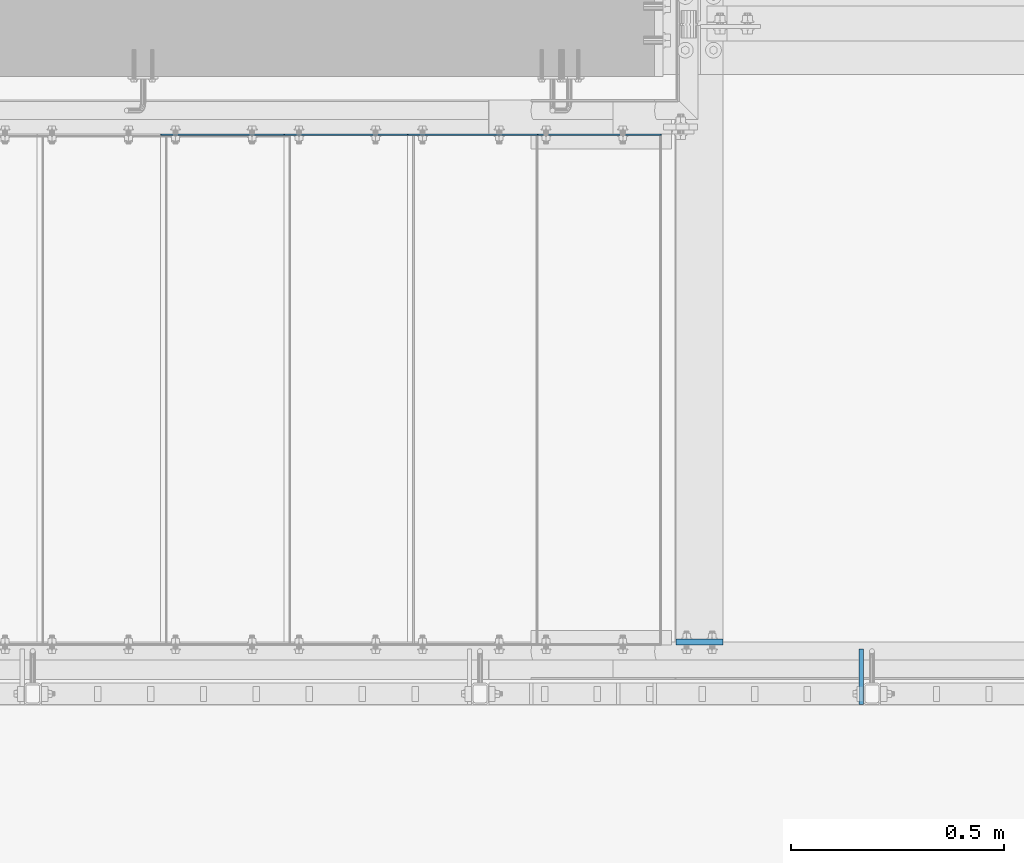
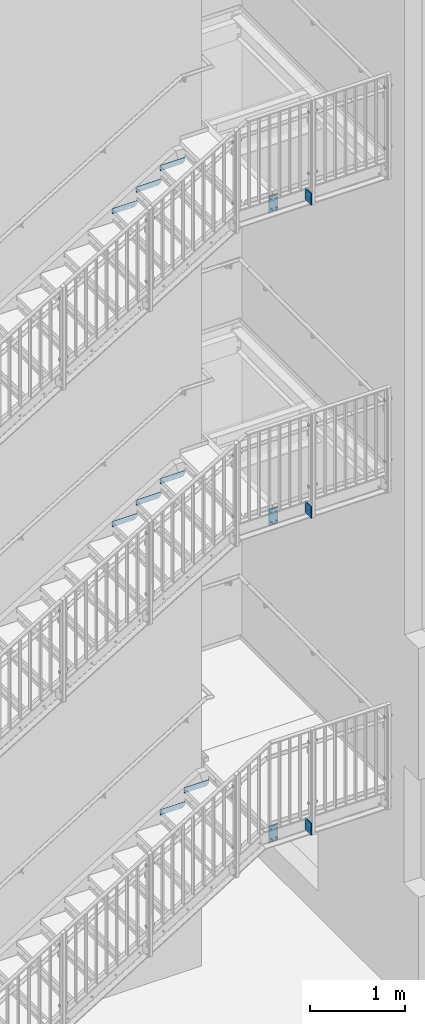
# One storey, part 61 of 410: 14 plates, 46 openings.
"""IFC2X3 building model written with IfcOpenShell, lengths in millimetres."""

import ifcopenshell
import ifcopenshell.guid

model = None  # the IFC model being written
_history = None  # IfcOwnerHistory: only IFC2X3 demands one
_inside = {}  # id of a spatial element -> (the spatial element, [elements in it])
_under = {}  # id of a project, library or spatial element -> (it, [spatial elements below it])
_declared = {}  # id of a project -> (the project, [libraries it declares])
_typed = {}  # id of a type object -> (the type object, [elements of that type])
_made_of = {}  # id of a material, layer set ... -> (it, [elements and type objects made of it])


def new_model(schema):
    """Start an empty IFC model of exactly this schema.

    Asked for "IFC4X3", IfcOpenShell would pick the latest addendum, in which some entities
    have other attributes; the version numbers below select the first issue.
    IFC2X3 requires an IfcOwnerHistory on every rooted entity: one is made here for all.
    """
    global model, _history
    if schema == "IFC4X3":
        model = ifcopenshell.file(schema_version=(4, 3, 0, 0))
    else:
        model = ifcopenshell.file(schema=schema)
    _inside.clear()
    _under.clear()
    _declared.clear()
    _typed.clear()
    _made_of.clear()
    _history = None
    if model.schema == "IFC2X3":
        org = make("IfcOrganization", Name="unknown")
        user = make(
            "IfcPersonAndOrganization",
            ThePerson=make("IfcPerson", FamilyName="unknown"),
            TheOrganization=org,
        )
        app = make(
            "IfcApplication",
            ApplicationDeveloper=org,
            Version="unknown",
            ApplicationFullName="unknown",
            ApplicationIdentifier="unknown",
        )
        _history = make(
            "IfcOwnerHistory",
            OwningUser=user,
            OwningApplication=app,
            ChangeAction="ADDED",
            CreationDate=0,
        )
    return model


def make(cls, **values):
    """One entity of the class cls with the attributes given. An attribute that is None is left unset."""
    return model.create_entity(
        cls, **{name: value for name, value in values.items() if value is not None}
    )


def entity(cls, *values):
    """Any entity or typed value of the class cls, its attributes in the order of the schema. None: left unset."""
    e = model.create_entity(cls)
    for i, value in enumerate(values):
        if value is not None:
            e[i] = value
    return e


def rooted(cls, **values):
    """An entity with a GlobalId (a new one), such as an element, a storey or a relation."""
    return make(cls, GlobalId=ifcopenshell.guid.new(), OwnerHistory=_history, **values)


def si_unit(unit_type, name, prefix=None):
    """IfcSIUnit, for example si_unit("LENGTHUNIT", "METRE", prefix="MILLI")."""
    return make("IfcSIUnit", UnitType=unit_type, Prefix=prefix, Name=name)


def converted_unit(unit_type, name, factor, base, dimensions=None, offset=None):
    """IfcConversionBasedUnit, such as the inch: factor (a typed value) times the base unit."""
    return make(
        "IfcConversionBasedUnit"
        if offset is None
        else "IfcConversionBasedUnitWithOffset",
        ConversionOffset=offset,
        Dimensions=None
        if dimensions is None
        else entity("IfcDimensionalExponents", *dimensions),
        UnitType=unit_type,
        Name=name,
        ConversionFactor=make(
            "IfcMeasureWithUnit", ValueComponent=factor, UnitComponent=base
        ),
    )


def assignment(units):
    """IfcUnitAssignment: the units of a project."""
    return None if units is None else make("IfcUnitAssignment", Units=units)


def point(xyz):
    """IfcCartesianPoint."""
    return None if xyz is None else make("IfcCartesianPoint", Coordinates=xyz)


def direction(xyz):
    """IfcDirection."""
    return None if xyz is None else make("IfcDirection", DirectionRatios=xyz)


def frame(location, z_axis=None, x_axis=None):
    """IfcAxis2Placement3D, a coordinate frame: its origin and axes. An axis left out is left unset."""
    return make(
        "IfcAxis2Placement3D",
        Location=point(location),
        Axis=direction(z_axis),
        RefDirection=direction(x_axis),
    )


def frame_2d(location, x_axis=None):
    """IfcAxis2Placement2D, a coordinate frame in the plane: its origin and x axis."""
    return make(
        "IfcAxis2Placement2D", Location=point(location), RefDirection=direction(x_axis)
    )


def origin():
    """The frame at (0, 0, 0) with its axes left unset."""
    return frame((0.0, 0.0, 0.0))


def origin_with_axes():
    """The frame at (0, 0, 0) with the z axis (0, 0, 1) and the x axis (1, 0, 0) written out."""
    return frame((0.0, 0.0, 0.0), z_axis=(0.0, 0.0, 1.0), x_axis=(1.0, 0.0, 0.0))


def origin_2d_with_axis():
    """The frame at (0, 0) in the plane with the x axis (1, 0) written out."""
    return frame_2d((0.0, 0.0), x_axis=(1.0, 0.0))


def place(relative_to, where):
    """IfcLocalPlacement: puts the frame where relative to a parent placement (None: the world)."""
    return make(
        "IfcLocalPlacement", PlacementRelTo=relative_to, RelativePlacement=where
    )


def context(
    kind, dimensions, precision=None, world=None, true_north=None, identifier=None
):
    """IfcGeometricRepresentationContext, for example the 3D "Model" context."""
    return make(
        "IfcGeometricRepresentationContext",
        ContextIdentifier=identifier,
        ContextType=kind,
        CoordinateSpaceDimension=dimensions,
        Precision=precision,
        WorldCoordinateSystem=world,
        TrueNorth=true_north,
    )


def project(units=None, contexts=None):
    """IfcProject with its units and contexts."""
    return rooted(
        "IfcProject",
        Name="project",
        RepresentationContexts=contexts,
        UnitsInContext=assignment(units),
    )


def spatial(cls, under=None, at=None, **own):
    """A site, building, storey or space (cls), placed at a placement, below another one or the project."""
    s = rooted(cls, ObjectPlacement=at, **own)
    if under is not None:
        _under.setdefault(under.id(), (under, []))[1].append(s)
    return s


def polyline(points):
    """IfcPolyline through the points."""
    return make("IfcPolyline", Points=[point(p) for p in points])


def circle_curve(where, radius):
    """IfcCircle in the frame where."""
    return make("IfcCircle", Position=where, Radius=radius)


def line_curve(start, along, magnitude):
    """IfcLine from a point along a vector."""
    return make(
        "IfcLine",
        Pnt=point(start),
        Dir=make("IfcVector", Orientation=direction(along), Magnitude=magnitude),
    )


def trimmed(basis, trim1, trim2, sense, master):
    """IfcTrimmedCurve: the piece of a basis curve between two trims."""
    return make(
        "IfcTrimmedCurve",
        BasisCurve=basis,
        Trim1=trim1,
        Trim2=trim2,
        SenseAgreement=sense,
        MasterRepresentation=master,
    )


def segment(curve, same_sense, transition):
    """IfcCompositeCurveSegment."""
    return make(
        "IfcCompositeCurveSegment",
        Transition=transition,
        SameSense=same_sense,
        ParentCurve=curve,
    )


def composite_curve(segments, self_intersect=None):
    """IfcCompositeCurve: segments joined end to end."""
    return make("IfcCompositeCurve", Segments=segments, SelfIntersect=self_intersect)


def profile(cls, at=None, kind="AREA", **sizes):
    """A parametric profile (cls). Its sizes go by their IFC names, for example OverallWidth=200.0."""
    return make(cls, ProfileType=kind, Position=at, **sizes)


def circle(**sizes):
    """IfcCircleProfileDef."""
    return profile("IfcCircleProfileDef", **sizes)


def outline(outer, holes=None, kind="AREA"):
    """IfcArbitraryClosedProfileDef: a profile drawn as a closed curve; with holes, ...WithVoids."""
    if holes is None:
        return make("IfcArbitraryClosedProfileDef", ProfileType=kind, OuterCurve=outer)
    return make(
        "IfcArbitraryProfileDefWithVoids",
        ProfileType=kind,
        OuterCurve=outer,
        InnerCurves=holes,
    )


def extrude(swept, where, along, depth):
    """IfcExtrudedAreaSolid: the profile swept, set in the frame where, extruded along a direction by depth."""
    return make(
        "IfcExtrudedAreaSolid",
        SweptArea=swept,
        Position=where,
        ExtrudedDirection=direction(along),
        Depth=depth,
    )


def shape(context_of_items, identifier, shape_type, items):
    """IfcShapeRepresentation: the items that make up one representation, for example the "Body"."""
    return make(
        "IfcShapeRepresentation",
        ContextOfItems=context_of_items,
        RepresentationIdentifier=identifier,
        RepresentationType=shape_type,
        Items=items,
    )


def material(Name=None, Category=None):
    """IfcMaterial."""
    return make("IfcMaterial", Name=Name, Category=Category)


def layer(
    of_material, thickness, ventilated=None, Name=None, Category=None, Priority=None
):
    """IfcMaterialLayer: one layer of a wall or slab, of a material (None: an air gap)."""
    return make(
        "IfcMaterialLayer",
        Material=of_material,
        LayerThickness=thickness,
        IsVentilated=ventilated,
        Name=Name,
        Category=Category,
        Priority=Priority,
    )


def layer_set(layers, Name=None):
    """IfcMaterialLayerSet."""
    return make("IfcMaterialLayerSet", MaterialLayers=layers, LayerSetName=Name)


def made_of(thing, what):
    """Note that an element or type object is made of a material, layer set ...; save() writes the relation."""
    if what is not None:
        _made_of.setdefault(what.id(), (what, []))[1].append(thing)
    return thing


def element(
    cls,
    number,
    at=None,
    inside=None,
    cuts=None,
    type_object=None,
    material=None,
    context=None,
    identifier="Body",
    shape_type=None,
    held_by="IfcProductDefinitionShape",
    body=None,
    shapes=None,
    **own,
):
    """One element of the class cls, such as IfcWall. Its Tag is "e" and its number.

    at: its placement. inside: the storey or other place that contains it. cuts: it is an
    opening in that element (IfcRelVoidsElement). A single representation is given by context,
    identifier, shape_type and body (its items); several are given by shapes. held_by: the class
    of the entity that holds the representations. save() writes the other relations.
    """
    e = rooted(cls, Tag="e%d" % number, ObjectPlacement=at, **own)
    if body is not None:
        shapes = [shape(context, identifier, shape_type, body)]
    if shapes is not None:
        e.Representation = make(held_by, Representations=shapes)
    if inside is not None:
        _inside.setdefault(inside.id(), (inside, []))[1].append(e)
    if cuts is not None:
        rooted(
            "IfcRelVoidsElement", RelatingBuildingElement=cuts, RelatedOpeningElement=e
        )
    if type_object is not None:
        _typed.setdefault(type_object.id(), (type_object, []))[1].append(e)
    return made_of(e, material)


def aggregate(whole, parts):
    """IfcRelAggregates: a whole, such as a stair, and the parts it consists of."""
    return rooted("IfcRelAggregates", RelatingObject=whole, RelatedObjects=parts)


def save(model, path):
    """Write the relations noted so far, then the file.

    IfcRelAggregates (storeys below a building ...), IfcRelContainedInSpatialStructure (elements
    in a storey), IfcRelDefinesByType, IfcRelAssociatesMaterial and IfcRelDeclares: one each for
    every whole, place, type object, material and project.
    """
    for whole, parts in _under.values():
        aggregate(whole, parts)
    for where, things in _inside.values():
        rooted(
            "IfcRelContainedInSpatialStructure",
            RelatedElements=things,
            RelatingStructure=where,
        )
    for kind, things in _typed.values():
        rooted("IfcRelDefinesByType", RelatedObjects=things, RelatingType=kind)
    for what, things in _made_of.values():
        rooted("IfcRelAssociatesMaterial", RelatedObjects=things, RelatingMaterial=what)
    for by, libraries in _declared.values():
        rooted("IfcRelDeclares", RelatingContext=by, RelatedDefinitions=libraries)
    model.write(path)


model = new_model("IFC2X3")

# Units and contexts
model_context = context("Model", 3, precision=1e-09, world=origin_with_axes())
ifc_project = project(units=[si_unit("LENGTHUNIT", "METRE", prefix="MILLI"), si_unit("AREAUNIT", "SQUARE_METRE"), si_unit("VOLUMEUNIT", "CUBIC_METRE"), converted_unit("PLANEANGLEUNIT", "DEGREE", entity("IfcPlaneAngleMeasure", 0.01745329), si_unit("PLANEANGLEUNIT", "RADIAN"), dimensions=[0, 0, 0, 0, 0, 0, 0])], contexts=[model_context])

# Site, building, storey
site_placement = place(None, origin_with_axes())
site = spatial("IfcSite", under=ifc_project, at=site_placement, Name="mKR Teilneubau & Sanierung BA1 - Ostfildern", CompositionType="ELEMENT")
building_placement = place(site_placement, origin_with_axes())
building = spatial("IfcBuilding", under=site, at=building_placement, Name="Struktur 1", CompositionType="ELEMENT")
storey_placement = place(building_placement, origin_with_axes())
storey = spatial("IfcBuildingStorey", under=building, at=storey_placement, Name="Default Storey", CompositionType="ELEMENT", Elevation=0.0)

# Plate, openings
ifc_material = material(Name="S235JR")
ifc_layer_1 = layer(ifc_material, 3.0)
ifc_layer_set_1 = layer_set([ifc_layer_1], Name="S235JR")
plate_1_placement = place(None, frame((1195.0, 16719.999999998, -2503.2), z_axis=(0.0, -1.0, 0.0), x_axis=(0.0, 0.0, -1.0)))
plate_1 = element("IfcPlate", 1, at=plate_1_placement, inside=storey, material=ifc_layer_set_1, Name="Grate_Step#2", ObjectType="Grate_Step#2", context=model_context, shape_type="SweptSolid", body=[
    extrude(outline(polyline([(0.0, 0.0), (70.0, 0.0), (70.0, 275.0), (40.0, 305.0), (0.0, 305.0), (0.0, 0.0)])), origin_with_axes(), (0.0, 0.0, 1.0), 3.0),
])
opening_1_placement = place(plate_1_placement, frame((55.0, 215.0, 3.5), z_axis=(0.0, 0.0, -1.0), x_axis=(0.0, 1.0, 0.0)))
element("IfcOpeningElement", 2, at=opening_1_placement, cuts=plate_1, ObjectType="Opening", context=model_context, shape_type="SweptSolid", body=[
    extrude(outline(composite_curve([segment(trimmed(line_curve((-9.5, -7.001), (1.0, 0.0), 19.0), [point((-9.5, -7.001))], [point((9.5, -7.001))], True, "CARTESIAN"), True, "CONTINUOUS"), segment(trimmed(circle_curve(frame_2d((9.5, 0.0), x_axis=(1.0, 0.0)), 7.001), [point((9.5, -7.001))], [point((9.5, 7.001))], True, "CARTESIAN"), True, "CONTINUOUS"), segment(trimmed(line_curve((9.5, 7.001), (-1.0, 0.0), 19.0), [point((9.5, 7.001))], [point((-9.5, 7.001))], True, "CARTESIAN"), True, "CONTINUOUS"), segment(trimmed(circle_curve(frame_2d((-9.5, 0.0), x_axis=(1.0, 0.0)), 7.001), [point((-9.5, 7.001))], [point((-9.5, -7.001))], True, "CARTESIAN"), True, "CONTINUOUS")], self_intersect=False)), origin(), (0.0, 0.0, 1.0), 4.0),
])
opening_2_placement = place(plate_1_placement, frame((55.0, 35.0, 3.5), z_axis=(0.0, 0.0, -1.0), x_axis=(0.0, 1.0, 0.0)))
element("IfcOpeningElement", 3, at=opening_2_placement, cuts=plate_1, ObjectType="Opening", context=model_context, shape_type="SweptSolid", body=[
    extrude(circle(Radius=7.001, at=origin_2d_with_axis()), origin(), (0.0, 0.0, 1.0), 4.0),
])

plate_2_placement = place(None, frame((1485.0, 16719.999999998, -2324.4), z_axis=(0.0, -1.0, 0.0), x_axis=(0.0, 0.0, -1.0)))
plate_2 = element("IfcPlate", 4, at=plate_2_placement, inside=storey, material=ifc_layer_set_1, Name="Grate_Step#2", ObjectType="Grate_Step#2", context=model_context, shape_type="SweptSolid", body=[
    extrude(outline(polyline([(0.0, 0.0), (70.0, 0.0), (70.0, 275.0), (40.0, 305.0), (0.0, 305.0), (0.0, 0.0)])), origin_with_axes(), (0.0, 0.0, 1.0), 3.0),
])
opening_3_placement = place(plate_2_placement, frame((55.0, 215.0, 3.5), z_axis=(0.0, 0.0, -1.0), x_axis=(0.0, 1.0, 0.0)))
element("IfcOpeningElement", 5, at=opening_3_placement, cuts=plate_2, ObjectType="Opening", context=model_context, shape_type="SweptSolid", body=[
    extrude(outline(composite_curve([segment(trimmed(line_curve((-9.5, -7.001), (1.0, 0.0), 19.0), [point((-9.5, -7.001))], [point((9.5, -7.001))], True, "CARTESIAN"), True, "CONTINUOUS"), segment(trimmed(circle_curve(frame_2d((9.5, 0.0), x_axis=(1.0, 0.0)), 7.001), [point((9.5, -7.001))], [point((9.5, 7.001))], True, "CARTESIAN"), True, "CONTINUOUS"), segment(trimmed(line_curve((9.5, 7.001), (-1.0, 0.0), 19.0), [point((9.5, 7.001))], [point((-9.5, 7.001))], True, "CARTESIAN"), True, "CONTINUOUS"), segment(trimmed(circle_curve(frame_2d((-9.5, 0.0), x_axis=(1.0, 0.0)), 7.001), [point((-9.5, 7.001))], [point((-9.5, -7.001))], True, "CARTESIAN"), True, "CONTINUOUS")], self_intersect=False)), origin(), (0.0, 0.0, 1.0), 4.0),
])
opening_4_placement = place(plate_2_placement, frame((55.0, 35.0, 3.5), z_axis=(0.0, 0.0, -1.0), x_axis=(0.0, 1.0, 0.0)))
element("IfcOpeningElement", 6, at=opening_4_placement, cuts=plate_2, ObjectType="Opening", context=model_context, shape_type="SweptSolid", body=[
    extrude(circle(Radius=7.001, at=origin_2d_with_axis()), origin(), (0.0, 0.0, 1.0), 4.0),
])

plate_3_placement = place(None, frame((615.0, 16719.999999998, 1391.304348), z_axis=(0.0, -1.0, 0.0), x_axis=(0.0, 0.0, -1.0)))
plate_3 = element("IfcPlate", 7, at=plate_3_placement, inside=storey, material=ifc_layer_set_1, Name="Grate_Step#2", ObjectType="Grate_Step#2", context=model_context, shape_type="SweptSolid", body=[
    extrude(outline(polyline([(0.0, 0.0), (70.0, 0.0), (70.0, 275.0), (40.0, 305.0), (0.0, 305.0), (0.0, 0.0)])), origin_with_axes(), (0.0, 0.0, 1.0), 3.0),
])
opening_5_placement = place(plate_3_placement, frame((55.0, 35.0, 3.5), z_axis=(0.0, 0.0, -1.0), x_axis=(0.0, 1.0, 0.0)))
element("IfcOpeningElement", 8, at=opening_5_placement, cuts=plate_3, ObjectType="Opening", context=model_context, shape_type="SweptSolid", body=[
    extrude(circle(Radius=7.001, at=origin_2d_with_axis()), origin(), (0.0, 0.0, 1.0), 4.0),
])
opening_6_placement = place(plate_3_placement, frame((55.0, 215.0, 3.5), z_axis=(0.0, 0.0, -1.0), x_axis=(0.0, 1.0, 0.0)))
element("IfcOpeningElement", 9, at=opening_6_placement, cuts=plate_3, ObjectType="Opening", context=model_context, shape_type="SweptSolid", body=[
    extrude(outline(composite_curve([segment(trimmed(line_curve((-9.5, -7.001), (1.0, 0.0), 19.0), [point((-9.5, -7.001))], [point((9.5, -7.001))], True, "CARTESIAN"), True, "CONTINUOUS"), segment(trimmed(circle_curve(frame_2d((9.5, 0.0), x_axis=(1.0, 0.0)), 7.001), [point((9.5, -7.001))], [point((9.5, 7.001))], True, "CARTESIAN"), True, "CONTINUOUS"), segment(trimmed(line_curve((9.5, 7.001), (-1.0, 0.0), 19.0), [point((9.5, 7.001))], [point((-9.5, 7.001))], True, "CARTESIAN"), True, "CONTINUOUS"), segment(trimmed(circle_curve(frame_2d((-9.5, 0.0), x_axis=(1.0, 0.0)), 7.001), [point((-9.5, 7.001))], [point((-9.5, -7.001))], True, "CARTESIAN"), True, "CONTINUOUS")], self_intersect=False)), origin(), (0.0, 0.0, 1.0), 4.0),
])

plate_4_placement = place(None, frame((905.0, 16719.999999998, 1565.2173915), z_axis=(0.0, -1.0, 0.0), x_axis=(0.0, 0.0, -1.0)))
plate_4 = element("IfcPlate", 10, at=plate_4_placement, inside=storey, material=ifc_layer_set_1, Name="Grate_Step#2", ObjectType="Grate_Step#2", context=model_context, shape_type="SweptSolid", body=[
    extrude(outline(polyline([(0.0, 0.0), (70.0, 0.0), (70.0, 275.0), (40.0, 305.0), (0.0, 305.0), (0.0, 0.0)])), origin_with_axes(), (0.0, 0.0, 1.0), 3.0),
])
opening_7_placement = place(plate_4_placement, frame((55.0, 35.0, 3.5), z_axis=(0.0, 0.0, -1.0), x_axis=(0.0, 1.0, 0.0)))
element("IfcOpeningElement", 11, at=opening_7_placement, cuts=plate_4, ObjectType="Opening", context=model_context, shape_type="SweptSolid", body=[
    extrude(circle(Radius=7.001, at=origin_2d_with_axis()), origin(), (0.0, 0.0, 1.0), 4.0),
])
opening_8_placement = place(plate_4_placement, frame((55.0, 215.0, 3.5), z_axis=(0.0, 0.0, -1.0), x_axis=(0.0, 1.0, 0.0)))
element("IfcOpeningElement", 12, at=opening_8_placement, cuts=plate_4, ObjectType="Opening", context=model_context, shape_type="SweptSolid", body=[
    extrude(outline(composite_curve([segment(trimmed(line_curve((-9.5, -7.001), (1.0, 0.0), 19.0), [point((-9.5, -7.001))], [point((9.5, -7.001))], True, "CARTESIAN"), True, "CONTINUOUS"), segment(trimmed(circle_curve(frame_2d((9.5, 0.0), x_axis=(1.0, 0.0)), 7.001), [point((9.5, -7.001))], [point((9.5, 7.001))], True, "CARTESIAN"), True, "CONTINUOUS"), segment(trimmed(line_curve((9.5, 7.001), (-1.0, 0.0), 19.0), [point((9.5, 7.001))], [point((-9.5, 7.001))], True, "CARTESIAN"), True, "CONTINUOUS"), segment(trimmed(circle_curve(frame_2d((-9.5, 0.0), x_axis=(1.0, 0.0)), 7.001), [point((-9.5, 7.001))], [point((-9.5, -7.001))], True, "CARTESIAN"), True, "CONTINUOUS")], self_intersect=False)), origin(), (0.0, 0.0, 1.0), 4.0),
])

plate_5_placement = place(None, frame((1195.0, 16719.999999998, 1739.130435), z_axis=(0.0, -1.0, 0.0), x_axis=(0.0, 0.0, -1.0)))
plate_5 = element("IfcPlate", 13, at=plate_5_placement, inside=storey, material=ifc_layer_set_1, Name="Grate_Step#2", ObjectType="Grate_Step#2", context=model_context, shape_type="SweptSolid", body=[
    extrude(outline(polyline([(0.0, 0.0), (70.0, 0.0), (70.0, 275.0), (40.0, 305.0), (0.0, 305.0), (0.0, 0.0)])), origin_with_axes(), (0.0, 0.0, 1.0), 3.0),
])
opening_9_placement = place(plate_5_placement, frame((55.0, 215.0, 3.5), z_axis=(0.0, 0.0, -1.0), x_axis=(0.0, 1.0, 0.0)))
element("IfcOpeningElement", 14, at=opening_9_placement, cuts=plate_5, ObjectType="Opening", context=model_context, shape_type="SweptSolid", body=[
    extrude(outline(composite_curve([segment(trimmed(line_curve((-9.5, -7.001), (1.0, 0.0), 19.0), [point((-9.5, -7.001))], [point((9.5, -7.001))], True, "CARTESIAN"), True, "CONTINUOUS"), segment(trimmed(circle_curve(frame_2d((9.5, 0.0), x_axis=(1.0, 0.0)), 7.001), [point((9.5, -7.001))], [point((9.5, 7.001))], True, "CARTESIAN"), True, "CONTINUOUS"), segment(trimmed(line_curve((9.5, 7.001), (-1.0, 0.0), 19.0), [point((9.5, 7.001))], [point((-9.5, 7.001))], True, "CARTESIAN"), True, "CONTINUOUS"), segment(trimmed(circle_curve(frame_2d((-9.5, 0.0), x_axis=(1.0, 0.0)), 7.001), [point((-9.5, 7.001))], [point((-9.5, -7.001))], True, "CARTESIAN"), True, "CONTINUOUS")], self_intersect=False)), origin(), (0.0, 0.0, 1.0), 4.0),
])
opening_10_placement = place(plate_5_placement, frame((55.0, 35.0, 3.5), z_axis=(0.0, 0.0, -1.0), x_axis=(0.0, 1.0, 0.0)))
element("IfcOpeningElement", 15, at=opening_10_placement, cuts=plate_5, ObjectType="Opening", context=model_context, shape_type="SweptSolid", body=[
    extrude(circle(Radius=7.001, at=origin_2d_with_axis()), origin(), (0.0, 0.0, 1.0), 4.0),
])

plate_6_placement = place(None, frame((615.0, 16719.999999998, 5400.0), z_axis=(0.0, -1.0, 0.0), x_axis=(0.0, 0.0, -1.0)))
plate_6 = element("IfcPlate", 16, at=plate_6_placement, inside=storey, material=ifc_layer_set_1, Name="Grate_Step#2", ObjectType="Grate_Step#2", context=model_context, shape_type="SweptSolid", body=[
    extrude(outline(polyline([(0.0, 0.0), (70.0, 0.0), (70.0, 275.0), (40.0, 305.0), (0.0, 305.0), (0.0, 0.0)])), origin_with_axes(), (0.0, 0.0, 1.0), 3.0),
])
opening_11_placement = place(plate_6_placement, frame((55.0, 215.0, 3.5), z_axis=(0.0, 0.0, -1.0), x_axis=(0.0, 1.0, 0.0)))
element("IfcOpeningElement", 17, at=opening_11_placement, cuts=plate_6, ObjectType="Opening", context=model_context, shape_type="SweptSolid", body=[
    extrude(outline(composite_curve([segment(trimmed(line_curve((-9.5, -7.001), (1.0, 0.0), 19.0), [point((-9.5, -7.001))], [point((9.5, -7.001))], True, "CARTESIAN"), True, "CONTINUOUS"), segment(trimmed(circle_curve(frame_2d((9.5, 0.0), x_axis=(1.0, 0.0)), 7.001), [point((9.5, -7.001))], [point((9.5, 7.001))], True, "CARTESIAN"), True, "CONTINUOUS"), segment(trimmed(line_curve((9.5, 7.001), (-1.0, 0.0), 19.0), [point((9.5, 7.001))], [point((-9.5, 7.001))], True, "CARTESIAN"), True, "CONTINUOUS"), segment(trimmed(circle_curve(frame_2d((-9.5, 0.0), x_axis=(1.0, 0.0)), 7.001), [point((-9.5, 7.001))], [point((-9.5, -7.001))], True, "CARTESIAN"), True, "CONTINUOUS")], self_intersect=False)), origin(), (0.0, 0.0, 1.0), 4.0),
])
opening_12_placement = place(plate_6_placement, frame((55.0, 35.0, 3.5), z_axis=(0.0, 0.0, -1.0), x_axis=(0.0, 1.0, 0.0)))
element("IfcOpeningElement", 18, at=opening_12_placement, cuts=plate_6, ObjectType="Opening", context=model_context, shape_type="SweptSolid", body=[
    extrude(circle(Radius=7.001, at=origin_2d_with_axis()), origin(), (0.0, 0.0, 1.0), 4.0),
])

plate_7_placement = place(None, frame((905.0, 16719.999999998, 5575.0), z_axis=(0.0, -1.0, 0.0), x_axis=(0.0, 0.0, -1.0)))
plate_7 = element("IfcPlate", 19, at=plate_7_placement, inside=storey, material=ifc_layer_set_1, Name="Grate_Step#2", ObjectType="Grate_Step#2", context=model_context, shape_type="SweptSolid", body=[
    extrude(outline(polyline([(0.0, 0.0), (70.0, 0.0), (70.0, 275.0), (40.0, 305.0), (0.0, 305.0), (0.0, 0.0)])), origin_with_axes(), (0.0, 0.0, 1.0), 3.0),
])
opening_13_placement = place(plate_7_placement, frame((55.0, 215.0, 3.5), z_axis=(0.0, 0.0, -1.0), x_axis=(0.0, 1.0, 0.0)))
element("IfcOpeningElement", 20, at=opening_13_placement, cuts=plate_7, ObjectType="Opening", context=model_context, shape_type="SweptSolid", body=[
    extrude(outline(composite_curve([segment(trimmed(line_curve((-9.5, -7.001), (1.0, 0.0), 19.0), [point((-9.5, -7.001))], [point((9.5, -7.001))], True, "CARTESIAN"), True, "CONTINUOUS"), segment(trimmed(circle_curve(frame_2d((9.5, 0.0), x_axis=(1.0, 0.0)), 7.001), [point((9.5, -7.001))], [point((9.5, 7.001))], True, "CARTESIAN"), True, "CONTINUOUS"), segment(trimmed(line_curve((9.5, 7.001), (-1.0, 0.0), 19.0), [point((9.5, 7.001))], [point((-9.5, 7.001))], True, "CARTESIAN"), True, "CONTINUOUS"), segment(trimmed(circle_curve(frame_2d((-9.5, 0.0), x_axis=(1.0, 0.0)), 7.001), [point((-9.5, 7.001))], [point((-9.5, -7.001))], True, "CARTESIAN"), True, "CONTINUOUS")], self_intersect=False)), origin(), (0.0, 0.0, 1.0), 4.0),
])
opening_14_placement = place(plate_7_placement, frame((55.0, 35.0, 3.5), z_axis=(0.0, 0.0, -1.0), x_axis=(0.0, 1.0, 0.0)))
element("IfcOpeningElement", 21, at=opening_14_placement, cuts=plate_7, ObjectType="Opening", context=model_context, shape_type="SweptSolid", body=[
    extrude(circle(Radius=7.001, at=origin_2d_with_axis()), origin(), (0.0, 0.0, 1.0), 4.0),
])

plate_8_placement = place(None, frame((1195.0, 16719.999999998, 5750.0), z_axis=(0.0, -1.0, 0.0), x_axis=(0.0, 0.0, -1.0)))
plate_8 = element("IfcPlate", 22, at=plate_8_placement, inside=storey, material=ifc_layer_set_1, Name="Grate_Step#2", ObjectType="Grate_Step#2", context=model_context, shape_type="SweptSolid", body=[
    extrude(outline(polyline([(0.0, 0.0), (70.0, 0.0), (70.0, 275.0), (40.0, 305.0), (0.0, 305.0), (0.0, 0.0)])), origin_with_axes(), (0.0, 0.0, 1.0), 3.0),
])
opening_15_placement = place(plate_8_placement, frame((55.0, 215.0, 3.5), z_axis=(0.0, 0.0, -1.0), x_axis=(0.0, 1.0, 0.0)))
element("IfcOpeningElement", 23, at=opening_15_placement, cuts=plate_8, ObjectType="Opening", context=model_context, shape_type="SweptSolid", body=[
    extrude(outline(composite_curve([segment(trimmed(line_curve((-9.5, -7.001), (1.0, 0.0), 19.0), [point((-9.5, -7.001))], [point((9.5, -7.001))], True, "CARTESIAN"), True, "CONTINUOUS"), segment(trimmed(circle_curve(frame_2d((9.5, 0.0), x_axis=(1.0, 0.0)), 7.001), [point((9.5, -7.001))], [point((9.5, 7.001))], True, "CARTESIAN"), True, "CONTINUOUS"), segment(trimmed(line_curve((9.5, 7.001), (-1.0, 0.0), 19.0), [point((9.5, 7.001))], [point((-9.5, 7.001))], True, "CARTESIAN"), True, "CONTINUOUS"), segment(trimmed(circle_curve(frame_2d((-9.5, 0.0), x_axis=(1.0, 0.0)), 7.001), [point((-9.5, 7.001))], [point((-9.5, -7.001))], True, "CARTESIAN"), True, "CONTINUOUS")], self_intersect=False)), origin(), (0.0, 0.0, 1.0), 4.0),
])
opening_16_placement = place(plate_8_placement, frame((55.0, 35.0, 3.5), z_axis=(0.0, 0.0, -1.0), x_axis=(0.0, 1.0, 0.0)))
element("IfcOpeningElement", 24, at=opening_16_placement, cuts=plate_8, ObjectType="Opening", context=model_context, shape_type="SweptSolid", body=[
    extrude(circle(Radius=7.001, at=origin_2d_with_axis()), origin(), (0.0, 0.0, 1.0), 4.0),
])

ifc_layer_2 = layer(ifc_material, 15.0)
ifc_layer_set_2 = layer_set([ifc_layer_2], Name="S235JR")
plate_9_placement = place(None, frame((1880.001468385, 15534.999999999, 1743.0434785), z_axis=(0.0, -1.0, 0.0), x_axis=(1.0, 0.0, 0.0)))
plate_9 = element("IfcPlate", 25, at=plate_9_placement, inside=storey, material=ifc_layer_set_2, Name="-", ObjectType="-", context=model_context, shape_type="SweptSolid", body=[
    extrude(outline(polyline([(-55.0, -105.0), (55.0, -105.0), (55.0, 105.0), (-55.0, 105.0), (-55.0, -105.0)])), origin_with_axes(), (0.0, 0.0, 1.0), 15.0),
])
opening_17_placement = place(plate_9_placement, frame((2.9e-08, 1.5e-08, -0.5), z_axis=(0.0, 0.0, 1.0), x_axis=(1.0, 0.0, 0.0)))
element("IfcOpeningElement", 26, at=opening_17_placement, cuts=plate_9, ObjectType="Opening", context=model_context, shape_type="SweptSolid", body=[
    extrude(circle(Radius=7.001, at=frame_2d((30.0, 60.0), x_axis=(1.0, 0.0))), origin(), (0.0, 0.0, 1.0), 16.0),
])
opening_18_placement = place(plate_9_placement, frame((2.9e-08, 1.5e-08, -0.5), z_axis=(0.0, 0.0, 1.0), x_axis=(1.0, 0.0, 0.0)))
element("IfcOpeningElement", 27, at=opening_18_placement, cuts=plate_9, ObjectType="Opening", context=model_context, shape_type="SweptSolid", body=[
    extrude(circle(Radius=7.001, at=frame_2d((-30.0, 60.0), x_axis=(1.0, 0.0))), origin(), (0.0, 0.0, 1.0), 16.0),
])
opening_19_placement = place(plate_9_placement, frame((2.9e-08, 1.5e-08, -0.5), z_axis=(0.0, 0.0, 1.0), x_axis=(1.0, 0.0, 0.0)))
element("IfcOpeningElement", 28, at=opening_19_placement, cuts=plate_9, ObjectType="Opening", context=model_context, shape_type="SweptSolid", body=[
    extrude(circle(Radius=7.001, at=frame_2d((30.0, -60.0), x_axis=(1.0, 0.0))), origin(), (0.0, 0.0, 1.0), 16.0),
])
opening_20_placement = place(plate_9_placement, frame((2.9e-08, 1.5e-08, -0.5), z_axis=(0.0, 0.0, 1.0), x_axis=(1.0, 0.0, 0.0)))
element("IfcOpeningElement", 29, at=opening_20_placement, cuts=plate_9, ObjectType="Opening", context=model_context, shape_type="SweptSolid", body=[
    extrude(circle(Radius=7.001, at=frame_2d((-30.0, -60.0), x_axis=(1.0, 0.0))), origin(), (0.0, 0.0, 1.0), 16.0),
])
opening_21_placement = place(plate_9_placement, frame((14.95, 88.8, 15.5), z_axis=(0.0, 0.0, -1.0), x_axis=(0.0, 1.0, 0.0)))
element("IfcOpeningElement", 30, at=opening_21_placement, cuts=plate_9, ObjectType="Opening", context=model_context, shape_type="SweptSolid", body=[
    extrude(circle(Radius=6.001, at=origin_2d_with_axis()), origin(), (0.0, 0.0, 1.0), 16.0),
])
opening_22_placement = place(plate_9_placement, frame((14.95, -88.8, 15.5), z_axis=(0.0, 0.0, -1.0), x_axis=(0.0, 1.0, 0.0)))
element("IfcOpeningElement", 31, at=opening_22_placement, cuts=plate_9, ObjectType="Opening", context=model_context, shape_type="SweptSolid", body=[
    extrude(circle(Radius=6.001, at=origin_2d_with_axis()), origin(), (0.0, 0.0, 1.0), 16.0),
])
opening_23_placement = place(plate_9_placement, frame((-14.95, -88.8, 15.5), z_axis=(0.0, 0.0, -1.0), x_axis=(0.0, 1.0, 0.0)))
element("IfcOpeningElement", 32, at=opening_23_placement, cuts=plate_9, ObjectType="Opening", context=model_context, shape_type="SweptSolid", body=[
    extrude(circle(Radius=6.001, at=origin_2d_with_axis()), origin(), (0.0, 0.0, 1.0), 16.0),
])
opening_24_placement = place(plate_9_placement, frame((-14.95, 88.8, 15.5), z_axis=(0.0, 0.0, -1.0), x_axis=(0.0, 1.0, 0.0)))
element("IfcOpeningElement", 33, at=opening_24_placement, cuts=plate_9, ObjectType="Opening", context=model_context, shape_type="SweptSolid", body=[
    extrude(circle(Radius=6.001, at=origin_2d_with_axis()), origin(), (0.0, 0.0, 1.0), 16.0),
])

plate_10_placement = place(None, frame((1880.001468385, 15534.999999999, 5755.000000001), z_axis=(0.0, -1.0, 0.0), x_axis=(1.0, 0.0, 0.0)))
plate_10 = element("IfcPlate", 34, at=plate_10_placement, inside=storey, material=ifc_layer_set_2, Name="-", ObjectType="-", context=model_context, shape_type="SweptSolid", body=[
    extrude(outline(polyline([(-55.0, -105.0), (55.0, -105.0), (55.0, 105.0), (-55.0, 105.0), (-55.0, -105.0)])), origin_with_axes(), (0.0, 0.0, 1.0), 15.0),
])
opening_25_placement = place(plate_10_placement, frame((2.9e-08, 1.5e-08, -0.5), z_axis=(0.0, 0.0, 1.0), x_axis=(1.0, 0.0, 0.0)))
element("IfcOpeningElement", 35, at=opening_25_placement, cuts=plate_10, ObjectType="Opening", context=model_context, shape_type="SweptSolid", body=[
    extrude(circle(Radius=7.001, at=frame_2d((30.0, 60.0), x_axis=(1.0, 0.0))), origin(), (0.0, 0.0, 1.0), 16.0),
])
opening_26_placement = place(plate_10_placement, frame((2.9e-08, 1.5e-08, -0.5), z_axis=(0.0, 0.0, 1.0), x_axis=(1.0, 0.0, 0.0)))
element("IfcOpeningElement", 36, at=opening_26_placement, cuts=plate_10, ObjectType="Opening", context=model_context, shape_type="SweptSolid", body=[
    extrude(circle(Radius=7.001, at=frame_2d((-30.0, 60.0), x_axis=(1.0, 0.0))), origin(), (0.0, 0.0, 1.0), 16.0),
])
opening_27_placement = place(plate_10_placement, frame((2.9e-08, 1.5e-08, -0.5), z_axis=(0.0, 0.0, 1.0), x_axis=(1.0, 0.0, 0.0)))
element("IfcOpeningElement", 37, at=opening_27_placement, cuts=plate_10, ObjectType="Opening", context=model_context, shape_type="SweptSolid", body=[
    extrude(circle(Radius=7.001, at=frame_2d((30.0, -60.0), x_axis=(1.0, 0.0))), origin(), (0.0, 0.0, 1.0), 16.0),
])
opening_28_placement = place(plate_10_placement, frame((2.9e-08, 1.5e-08, -0.5), z_axis=(0.0, 0.0, 1.0), x_axis=(1.0, 0.0, 0.0)))
element("IfcOpeningElement", 38, at=opening_28_placement, cuts=plate_10, ObjectType="Opening", context=model_context, shape_type="SweptSolid", body=[
    extrude(circle(Radius=7.001, at=frame_2d((-30.0, -60.0), x_axis=(1.0, 0.0))), origin(), (0.0, 0.0, 1.0), 16.0),
])
opening_29_placement = place(plate_10_placement, frame((14.95, 88.8, 15.5), z_axis=(0.0, 0.0, -1.0), x_axis=(0.0, 1.0, 0.0)))
element("IfcOpeningElement", 39, at=opening_29_placement, cuts=plate_10, ObjectType="Opening", context=model_context, shape_type="SweptSolid", body=[
    extrude(circle(Radius=6.001, at=origin_2d_with_axis()), origin(), (0.0, 0.0, 1.0), 16.0),
])
opening_30_placement = place(plate_10_placement, frame((14.95, -88.8, 15.5), z_axis=(0.0, 0.0, -1.0), x_axis=(0.0, 1.0, 0.0)))
element("IfcOpeningElement", 40, at=opening_30_placement, cuts=plate_10, ObjectType="Opening", context=model_context, shape_type="SweptSolid", body=[
    extrude(circle(Radius=6.001, at=origin_2d_with_axis()), origin(), (0.0, 0.0, 1.0), 16.0),
])
opening_31_placement = place(plate_10_placement, frame((-14.95, -88.8, 15.5), z_axis=(0.0, 0.0, -1.0), x_axis=(0.0, 1.0, 0.0)))
element("IfcOpeningElement", 41, at=opening_31_placement, cuts=plate_10, ObjectType="Opening", context=model_context, shape_type="SweptSolid", body=[
    extrude(circle(Radius=6.001, at=origin_2d_with_axis()), origin(), (0.0, 0.0, 1.0), 16.0),
])
opening_32_placement = place(plate_10_placement, frame((-14.95, 88.8, 15.5), z_axis=(0.0, 0.0, -1.0), x_axis=(0.0, 1.0, 0.0)))
element("IfcOpeningElement", 42, at=opening_32_placement, cuts=plate_10, ObjectType="Opening", context=model_context, shape_type="SweptSolid", body=[
    extrude(circle(Radius=6.001, at=origin_2d_with_axis()), origin(), (0.0, 0.0, 1.0), 16.0),
])

plate_11_placement = place(None, frame((1880.001468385, 15535.000000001, -2315.599999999), z_axis=(0.0, -1.0, 0.0), x_axis=(1.0, 0.0, 0.0)))
plate_11 = element("IfcPlate", 43, at=plate_11_placement, inside=storey, material=ifc_layer_set_2, Name="-", ObjectType="-", context=model_context, shape_type="SweptSolid", body=[
    extrude(outline(polyline([(-55.0, -105.0), (55.0, -105.0), (55.0, 105.0), (-55.0, 105.0), (-55.0, -105.0)])), origin_with_axes(), (0.0, 0.0, 1.0), 15.0),
])
opening_33_placement = place(plate_11_placement, frame((2.9e-08, 1.5e-08, -0.5), z_axis=(0.0, 0.0, 1.0), x_axis=(1.0, 0.0, 0.0)))
element("IfcOpeningElement", 44, at=opening_33_placement, cuts=plate_11, ObjectType="Opening", context=model_context, shape_type="SweptSolid", body=[
    extrude(circle(Radius=7.001, at=frame_2d((30.0, 60.0), x_axis=(1.0, 0.0))), origin(), (0.0, 0.0, 1.0), 16.0),
])
opening_34_placement = place(plate_11_placement, frame((2.9e-08, 1.5e-08, -0.5), z_axis=(0.0, 0.0, 1.0), x_axis=(1.0, 0.0, 0.0)))
element("IfcOpeningElement", 45, at=opening_34_placement, cuts=plate_11, ObjectType="Opening", context=model_context, shape_type="SweptSolid", body=[
    extrude(circle(Radius=7.001, at=frame_2d((-30.0, 60.0), x_axis=(1.0, 0.0))), origin(), (0.0, 0.0, 1.0), 16.0),
])
opening_35_placement = place(plate_11_placement, frame((2.9e-08, 1.5e-08, -0.5), z_axis=(0.0, 0.0, 1.0), x_axis=(1.0, 0.0, 0.0)))
element("IfcOpeningElement", 46, at=opening_35_placement, cuts=plate_11, ObjectType="Opening", context=model_context, shape_type="SweptSolid", body=[
    extrude(circle(Radius=7.001, at=frame_2d((30.0, -60.0), x_axis=(1.0, 0.0))), origin(), (0.0, 0.0, 1.0), 16.0),
])
opening_36_placement = place(plate_11_placement, frame((2.9e-08, 1.5e-08, -0.5), z_axis=(0.0, 0.0, 1.0), x_axis=(1.0, 0.0, 0.0)))
element("IfcOpeningElement", 47, at=opening_36_placement, cuts=plate_11, ObjectType="Opening", context=model_context, shape_type="SweptSolid", body=[
    extrude(circle(Radius=7.001, at=frame_2d((-30.0, -60.0), x_axis=(1.0, 0.0))), origin(), (0.0, 0.0, 1.0), 16.0),
])
opening_37_placement = place(plate_11_placement, frame((14.95, 88.8, 15.5), z_axis=(0.0, 0.0, -1.0), x_axis=(0.0, 1.0, 0.0)))
element("IfcOpeningElement", 48, at=opening_37_placement, cuts=plate_11, ObjectType="Opening", context=model_context, shape_type="SweptSolid", body=[
    extrude(circle(Radius=6.001, at=origin_2d_with_axis()), origin(), (0.0, 0.0, 1.0), 16.0),
])
opening_38_placement = place(plate_11_placement, frame((14.95, -88.8, 15.5), z_axis=(0.0, 0.0, -1.0), x_axis=(0.0, 1.0, 0.0)))
element("IfcOpeningElement", 49, at=opening_38_placement, cuts=plate_11, ObjectType="Opening", context=model_context, shape_type="SweptSolid", body=[
    extrude(circle(Radius=6.001, at=origin_2d_with_axis()), origin(), (0.0, 0.0, 1.0), 16.0),
])
opening_39_placement = place(plate_11_placement, frame((-14.95, -88.8, 15.5), z_axis=(0.0, 0.0, -1.0), x_axis=(0.0, 1.0, 0.0)))
element("IfcOpeningElement", 50, at=opening_39_placement, cuts=plate_11, ObjectType="Opening", context=model_context, shape_type="SweptSolid", body=[
    extrude(circle(Radius=6.001, at=origin_2d_with_axis()), origin(), (0.0, 0.0, 1.0), 16.0),
])
opening_40_placement = place(plate_11_placement, frame((-14.95, 88.8, 15.5), z_axis=(0.0, 0.0, -1.0), x_axis=(0.0, 1.0, 0.0)))
element("IfcOpeningElement", 51, at=opening_40_placement, cuts=plate_11, ObjectType="Opening", context=model_context, shape_type="SweptSolid", body=[
    extrude(circle(Radius=6.001, at=origin_2d_with_axis()), origin(), (0.0, 0.0, 1.0), 16.0),
])

ifc_layer_3 = layer(ifc_material, 10.0)
ifc_layer_set_3 = layer_set([ifc_layer_3], Name="S235JR")
plate_12_placement = place(None, frame((2265.001468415, 15445.999999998, 5755.0), z_axis=(-1.0, 0.0, 0.0), x_axis=(0.0, -1.0, 0.0)))
plate_12 = element("IfcPlate", 52, at=plate_12_placement, inside=storey, material=ifc_layer_set_3, Name="-", ObjectType="-", context=model_context, shape_type="SweptSolid", body=[
    extrude(outline(polyline([(-65.0, -75.0), (65.0, -75.0), (65.0, 75.0), (-65.0, 75.0), (-65.0, -75.0)])), origin_with_axes(), (0.0, 0.0, 1.0), 10.0),
])
opening_41_placement = place(plate_12_placement, frame((40.0, 0.0, -0.5), z_axis=(0.0, 0.0, 1.0), x_axis=(1.0, 0.0, 0.0)))
element("IfcOpeningElement", 53, at=opening_41_placement, cuts=plate_12, ObjectType="Opening", context=model_context, shape_type="SweptSolid", body=[
    extrude(circle(Radius=7.001, at=frame_2d((0.0, 50.0), x_axis=(1.0, 0.0))), origin(), (0.0, 0.0, 1.0), 11.0),
])
opening_42_placement = place(plate_12_placement, frame((40.0, 0.0, -0.5), z_axis=(0.0, 0.0, 1.0), x_axis=(1.0, 0.0, 0.0)))
element("IfcOpeningElement", 54, at=opening_42_placement, cuts=plate_12, ObjectType="Opening", context=model_context, shape_type="SweptSolid", body=[
    extrude(circle(Radius=7.001, at=frame_2d((0.0, -50.0), x_axis=(1.0, 0.0))), origin(), (0.0, 0.0, 1.0), 11.0),
])

plate_13_placement = place(None, frame((2265.001468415, 15445.999999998, 1743.0434785), z_axis=(-1.0, 0.0, 0.0), x_axis=(0.0, -1.0, 0.0)))
plate_13 = element("IfcPlate", 55, at=plate_13_placement, inside=storey, material=ifc_layer_set_3, Name="-", ObjectType="-", context=model_context, shape_type="SweptSolid", body=[
    extrude(outline(polyline([(-65.0, -75.0), (65.0, -75.0), (65.0, 75.0), (-65.0, 75.0), (-65.0, -75.0)])), origin_with_axes(), (0.0, 0.0, 1.0), 10.0),
])
opening_43_placement = place(plate_13_placement, frame((40.0, 0.0, -0.5), z_axis=(0.0, 0.0, 1.0), x_axis=(1.0, 0.0, 0.0)))
element("IfcOpeningElement", 56, at=opening_43_placement, cuts=plate_13, ObjectType="Opening", context=model_context, shape_type="SweptSolid", body=[
    extrude(circle(Radius=7.001, at=frame_2d((0.0, 50.0), x_axis=(1.0, 0.0))), origin(), (0.0, 0.0, 1.0), 11.0),
])
opening_44_placement = place(plate_13_placement, frame((40.0, 0.0, -0.5), z_axis=(0.0, 0.0, 1.0), x_axis=(1.0, 0.0, 0.0)))
element("IfcOpeningElement", 57, at=opening_44_placement, cuts=plate_13, ObjectType="Opening", context=model_context, shape_type="SweptSolid", body=[
    extrude(circle(Radius=7.001, at=frame_2d((0.0, -50.0), x_axis=(1.0, 0.0))), origin(), (0.0, 0.0, 1.0), 11.0),
])

plate_14_placement = place(None, frame((2265.001468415, 15445.999999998, -2315.6), z_axis=(-1.0, 0.0, 0.0), x_axis=(0.0, -1.0, 0.0)))
plate_14 = element("IfcPlate", 58, at=plate_14_placement, inside=storey, material=ifc_layer_set_3, Name="-", ObjectType="-", context=model_context, shape_type="SweptSolid", body=[
    extrude(outline(polyline([(-65.0, -75.0), (65.0, -75.0), (65.0, 75.0), (-65.0, 75.0), (-65.0, -75.0)])), origin_with_axes(), (0.0, 0.0, 1.0), 10.0),
])
opening_45_placement = place(plate_14_placement, frame((40.0, 0.0, -0.5), z_axis=(0.0, 0.0, 1.0), x_axis=(1.0, 0.0, 0.0)))
element("IfcOpeningElement", 59, at=opening_45_placement, cuts=plate_14, ObjectType="Opening", context=model_context, shape_type="SweptSolid", body=[
    extrude(circle(Radius=7.001, at=frame_2d((0.0, 50.0), x_axis=(1.0, 0.0))), origin(), (0.0, 0.0, 1.0), 11.0),
])
opening_46_placement = place(plate_14_placement, frame((40.0, 0.0, -0.5), z_axis=(0.0, 0.0, 1.0), x_axis=(1.0, 0.0, 0.0)))
element("IfcOpeningElement", 60, at=opening_46_placement, cuts=plate_14, ObjectType="Opening", context=model_context, shape_type="SweptSolid", body=[
    extrude(circle(Radius=7.001, at=frame_2d((0.0, -50.0), x_axis=(1.0, 0.0))), origin(), (0.0, 0.0, 1.0), 11.0),
])

save(model, "model.ifc")
